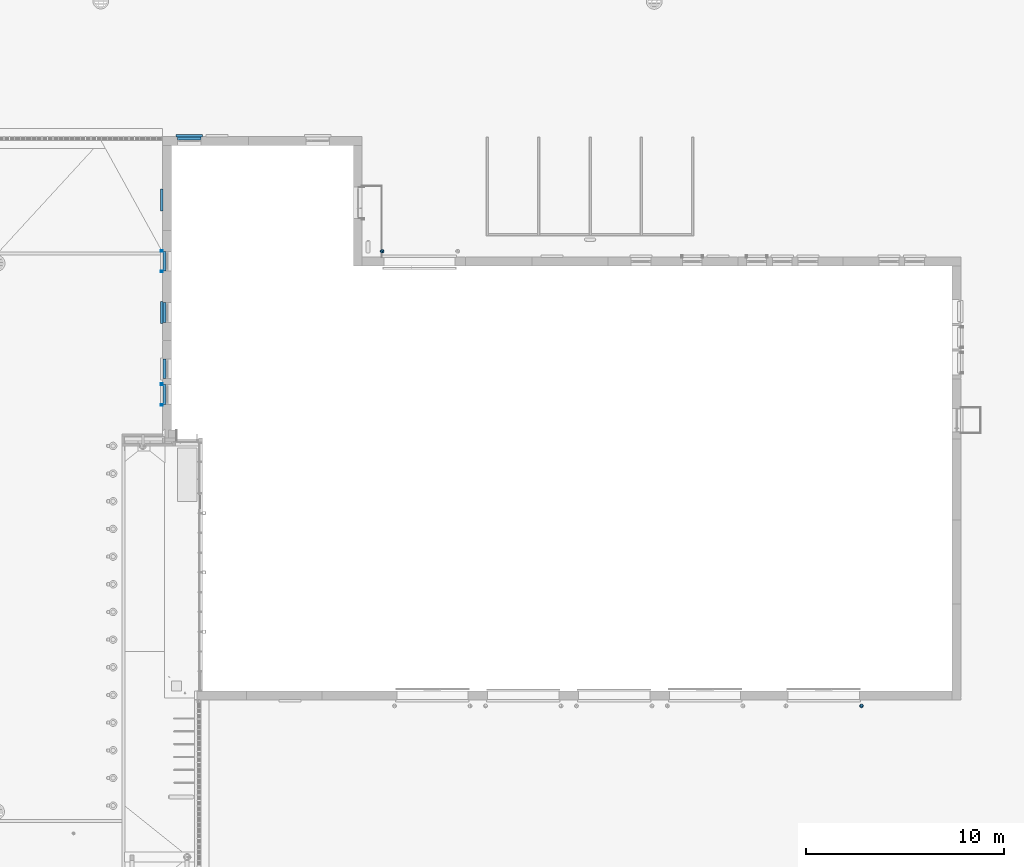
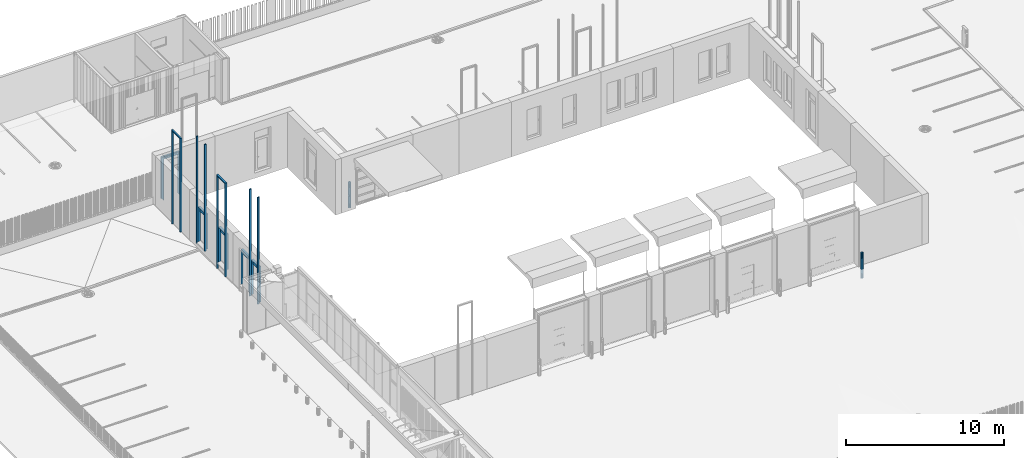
# One storey, part 49 of 77: 11 discrete accessories.
"""IFC2X3 building model written with IfcOpenShell, lengths in millimetres."""

from ifc_helpers import new_model, entity, si_unit, converted_unit, derived_unit, direction, frame, origin, origin_2d_with_axis, place, context, subcontext, project, spatial, polyline, rectangle, outline, extrude, faceted_brep, source, transform, mapped, material, type_object, type_shapes, element, save


model = new_model("IFC2X3")

# Units and contexts
model_context = context("Model", 3, precision=0.01, world=origin(), true_north=direction((6.12303176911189e-17, 1.0)))
body_context = subcontext(model_context, "Body", "Model", "MODEL_VIEW")
ifc_project = project(units=[si_unit("LENGTHUNIT", "METRE", prefix="MILLI"), si_unit("AREAUNIT", "SQUARE_METRE"), si_unit("VOLUMEUNIT", "CUBIC_METRE"), converted_unit("PLANEANGLEUNIT", "DEGREE", entity("IfcRatioMeasure", 0.0174532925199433), si_unit("PLANEANGLEUNIT", "RADIAN"), dimensions=[0, 0, 0, 0, 0, 0, 0]), si_unit("MASSUNIT", "GRAM", prefix="KILO"), derived_unit("MASSDENSITYUNIT", [(si_unit("MASSUNIT", "GRAM", prefix="KILO"), 1), (si_unit("LENGTHUNIT", "METRE"), -3)]), si_unit("TIMEUNIT", "SECOND"), si_unit("FREQUENCYUNIT", "HERTZ"), si_unit("THERMODYNAMICTEMPERATUREUNIT", "DEGREE_CELSIUS"), derived_unit("THERMALTRANSMITTANCEUNIT", [(si_unit("MASSUNIT", "GRAM", prefix="KILO"), 1), (si_unit("THERMODYNAMICTEMPERATUREUNIT", "KELVIN"), -1), (si_unit("TIMEUNIT", "SECOND"), -3)]), derived_unit("VOLUMETRICFLOWRATEUNIT", [(si_unit("LENGTHUNIT", "METRE"), 3), (si_unit("TIMEUNIT", "SECOND"), -1)]), si_unit("ELECTRICCURRENTUNIT", "AMPERE"), si_unit("ELECTRICVOLTAGEUNIT", "VOLT"), si_unit("POWERUNIT", "WATT"), si_unit("FORCEUNIT", "NEWTON", prefix="KILO"), si_unit("ILLUMINANCEUNIT", "LUX"), si_unit("LUMINOUSFLUXUNIT", "LUMEN"), si_unit("LUMINOUSINTENSITYUNIT", "CANDELA"), derived_unit("USERDEFINED", [(si_unit("MASSUNIT", "GRAM", prefix="KILO"), -1), (si_unit("LENGTHUNIT", "METRE"), -2), (si_unit("TIMEUNIT", "SECOND"), 3), (si_unit("LUMINOUSFLUXUNIT", "LUMEN"), 1)]), derived_unit("LINEARVELOCITYUNIT", [(si_unit("LENGTHUNIT", "METRE"), 1), (si_unit("TIMEUNIT", "SECOND"), -1)]), si_unit("PRESSUREUNIT", "PASCAL"), derived_unit("USERDEFINED", [(si_unit("LENGTHUNIT", "METRE"), -2), (si_unit("MASSUNIT", "GRAM", prefix="KILO"), 1), (si_unit("TIMEUNIT", "SECOND"), -2)])], contexts=[model_context])

# Site, building, storey
site_placement = place(None, origin())
site = spatial("IfcSite", under=ifc_project, at=site_placement, Name="Default", CompositionType="ELEMENT")
building_placement = place(site_placement, origin())
building = spatial("IfcBuilding", under=site, at=building_placement, CompositionType="ELEMENT")
storey_placement = place(building_placement, origin())
storey = spatial("IfcBuildingStorey", under=building, at=storey_placement, Name="1. KORRUS", CompositionType="ELEMENT", Elevation=0.0)

# Discrete accessories
ifc_material_1 = material(Name="Default New Material-must-varv")
discrete_accessory_type_1 = type_object("IfcDiscreteAccessoryType", Name="ukse-pollar", material=ifc_material_1)
shared_shape_1 = source(origin(), body_context, "Body", "Brep", [
    faceted_brep([(93.969262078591, -34.2020143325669, 1200.0), (95.8287421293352, -23.6563789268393, 1200.0), (97.6882221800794, -13.1107435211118, 1200.0), (100.0, 0.0, 1200.0), (91.8749158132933, 0.0, 1205.6559032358), (83.7498316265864, 0.0, 1211.3118064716), (76.9390417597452, 0.0, 1216.05282423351), (69.2436158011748, -37.0764107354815, 1215.9880775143), (62.8416939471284, -39.8030161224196, 1218.4526620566), (63.3022221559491, -75.4406506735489, 1200.0), (-91.8749158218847, 0.0, 1205.65590322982), (-100.0, 0.0, 1200.0), (-97.6882221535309, -13.110743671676, 1200.0), (-95.8287421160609, -23.6563790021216, 1200.0), (-93.9692620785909, -34.2020143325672, 1200.0), (-76.9390417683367, 0.0, 1216.05282422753), (-83.7498316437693, 0.0, 1211.31180645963), (76.604444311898, -64.278760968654, 1200.0), (61.6281008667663, 0.0, 1224.0406107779), (85.2868531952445, -49.2403876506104, 1200.0), (4.40844307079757, -58.3778316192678, 1226.30016518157), (9.03191194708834, 0.0, 1237.09268012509), (-3.54862814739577, -32.9400963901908, 1234.4920463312), (44.627798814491, 0.0, 1230.53414834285), (54.6170308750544, -47.6944043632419, 1219.50624940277), (17.3648177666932, -98.4807753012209, 1200.0), (33.6824088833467, -92.5416578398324, 1200.0), (25.5588463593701, -59.4119136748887, 1223.53680168), (50.0, -86.6025403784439, 1200.0), (43.4209832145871, -50.3665618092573, 1222.6504135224), (36.1276477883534, 0.0, 1233.78091712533), (-85.2868531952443, -49.2403876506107, 1200.0), (-70.128251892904, 0.0, 1220.79384199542), (-76.6044443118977, -64.2787609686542, 1200.0), (-61.6281008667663, 0.0, 1224.0406107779), (70.128251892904, 0.0, 1220.79384199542), (-43.3922707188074, -54.0995868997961, 1221.20165944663), (-54.4185160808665, -48.7244133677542, 1219.21017541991), (-50.0, -86.6025403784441, 1200.0), (35.2622305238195, -66.2009236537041, 1218.09661192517), (27.095735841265, 0.0, 1234.88483812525), (-63.3022221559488, -75.4406506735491, 1200.0), (-62.8416940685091, -39.8030246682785, 1218.45265938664), (18.4754636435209, -34.2574490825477, 1233.0588958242), (18.0638238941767, 0.0, 1235.98875912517), (-53.1279498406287, 0.0, 1227.28737956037), (-69.2436179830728, -37.0764202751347, 1215.98807356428), (15.0400910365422, -63.9380091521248, 1223.05106581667), (0.0, -98.4807753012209, 1200.0), (-21.4967364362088, -71.3818883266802, 1218.36002279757), (-31.093916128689, -53.1550996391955, 1224.97270928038), (-33.6824088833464, -92.5416578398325, 1200.0), (-36.1276477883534, 0.0, 1233.78091712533), (-27.095735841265, 0.0, 1234.88483812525), (-13.9644320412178, -48.8776365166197, 1229.32055829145), (53.1279498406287, 0.0, 1227.28737956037), (-44.627798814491, 0.0, 1230.53414834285), (-18.0638238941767, 0.0, 1235.98875912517), (-9.03191194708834, 0.0, 1237.09268012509), (-9.80597558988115, -78.5292492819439, 1215.62108797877), (-17.3648177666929, -98.480775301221, 1200.0), (0.0, 0.0, 1238.19660112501), (-93.9692620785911, 34.2020143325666, 1200.0), (-95.8287421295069, 23.6563789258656, 1200.0), (-97.6882221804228, 13.1107435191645, 1200.0), (50.0, 86.6025403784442, 1200.0), (54.4185175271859, 48.7244091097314, 1219.21017640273), (63.3022221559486, 75.4406506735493, 1200.0), (97.6882221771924, 13.110743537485, 1200.0), (95.8287421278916, 23.6563789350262, 1200.0), (93.9692620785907, 34.2020143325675, 1200.0), (-76.6044443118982, 64.2787609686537, 1200.0), (-69.2436157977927, 37.076410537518, 1215.98807757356), (-85.2868531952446, 49.2403876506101, 1200.0), (-4.40844201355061, 58.377832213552, 1226.30016496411), (3.5486282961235, 32.9400954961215, 1234.4920465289), (-54.6170308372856, 47.6944042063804, 1219.50624947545), (-62.8416938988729, 39.8030161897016, 1218.45266205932), (-17.3648177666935, 98.4807753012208, 1200.0), (-33.6824088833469, 92.5416578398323, 1200.0), (-25.5588462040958, 59.4119134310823, 1223.53680181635), (85.2868531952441, 49.240387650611, 1200.0), (-43.420983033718, 50.3665619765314, 1222.65041351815), (62.8416939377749, 39.803016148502, 1218.45266205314), (43.3922717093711, 54.0995849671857, 1221.20165990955), (-50.0, 86.6025403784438, 1200.0), (-63.3022221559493, 75.4406506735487, 1200.0), (-18.4754634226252, 34.2574489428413, 1233.05889588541), (76.6044443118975, 64.2787609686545, 1200.0), (69.2436157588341, 37.0764105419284, 1215.98807759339), (-35.2622303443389, 66.2009242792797, 1218.09661165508), (-15.0400904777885, 63.938008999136, 1223.05106595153), (0.0, 98.4807753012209, 1200.0), (21.4967358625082, 71.3818881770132, 1218.3600229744), (31.0939160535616, 53.1551002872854, 1224.97270904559), (33.6824088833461, 92.5416578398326, 1200.0), (13.964432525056, 48.8776338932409, 1229.32055915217), (9.80597229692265, 78.5292495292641, 1215.62108807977), (17.3648177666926, 98.480775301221, 1200.0), (0.0, 0.0, 1200.0)], [[[0, 1, 2, 3, 4, 5, 6]], [[7, 8, 9]], [[10, 11, 12, 13, 14, 15, 16]], [[17, 18, 7]], [[0, 6, 19]], [[17, 19, 18]], [[20, 21, 22]], [[23, 24, 8]], [[25, 26, 27]], [[28, 24, 29]], [[29, 24, 30]], [[31, 32, 15]], [[33, 34, 31]], [[35, 19, 6]], [[32, 31, 34]], [[36, 37, 38]], [[39, 29, 40]], [[15, 14, 31]], [[41, 37, 42]], [[21, 43, 44]], [[18, 19, 35]], [[45, 34, 46]], [[38, 37, 41]], [[42, 45, 46]], [[40, 44, 27]], [[43, 20, 47]], [[28, 39, 26]], [[48, 25, 47]], [[49, 50, 51]], [[52, 36, 53]], [[22, 54, 20]], [[29, 30, 40]], [[26, 39, 27]], [[8, 55, 23]], [[9, 24, 28]], [[23, 30, 24]], [[55, 8, 7]], [[9, 8, 24]], [[56, 42, 37]], [[54, 50, 49]], [[50, 53, 36]], [[53, 50, 57]], [[54, 57, 50]], [[38, 51, 36]], [[58, 57, 54]], [[20, 59, 48]], [[52, 37, 36]], [[50, 36, 51]], [[45, 42, 56]], [[37, 52, 56]], [[33, 41, 46]], [[55, 7, 18]], [[17, 7, 9]], [[42, 46, 41]], [[33, 46, 34]], [[27, 43, 47]], [[44, 43, 27]], [[43, 21, 20]], [[47, 25, 27]], [[60, 59, 49]], [[20, 48, 47]], [[27, 39, 40]], [[29, 39, 28]], [[54, 22, 58]], [[61, 58, 22]], [[61, 22, 21]], [[54, 49, 59]], [[60, 49, 51]], [[54, 59, 20]], [[59, 60, 48]], [[62, 63, 64, 11, 10, 16, 15]], [[65, 66, 67]], [[4, 3, 68, 69, 70, 6, 5]], [[71, 34, 72]], [[71, 73, 34]], [[74, 58, 75]], [[56, 76, 77]], [[78, 79, 80]], [[35, 81, 18]], [[82, 76, 52]], [[67, 66, 83]], [[62, 15, 73]], [[70, 81, 6]], [[32, 73, 15]], [[84, 66, 65]], [[85, 76, 82]], [[72, 77, 86]], [[6, 81, 35]], [[58, 87, 57]], [[88, 18, 81]], [[34, 73, 32]], [[55, 18, 89]], [[83, 55, 89]], [[90, 82, 53]], [[53, 57, 80]], [[87, 74, 91]], [[85, 90, 79]], [[92, 78, 91]], [[93, 94, 95]], [[30, 84, 40]], [[75, 96, 74]], [[82, 52, 53]], [[79, 90, 80]], [[77, 45, 56]], [[86, 76, 85]], [[56, 52, 76]], [[45, 77, 72]], [[86, 77, 76]], [[23, 83, 66]], [[96, 94, 93]], [[94, 40, 84]], [[40, 94, 44]], [[96, 44, 94]], [[65, 95, 84]], [[21, 44, 96]], [[74, 97, 92]], [[30, 66, 84]], [[94, 84, 95]], [[55, 83, 23]], [[66, 30, 23]], [[88, 67, 89]], [[45, 72, 34]], [[71, 72, 86]], [[83, 89, 67]], [[88, 89, 18]], [[80, 87, 91]], [[57, 87, 80]], [[87, 58, 74]], [[91, 78, 80]], [[98, 97, 93]], [[74, 92, 91]], [[80, 90, 53]], [[82, 90, 85]], [[96, 75, 21]], [[61, 21, 75]], [[61, 75, 58]], [[96, 93, 97]], [[98, 93, 95]], [[96, 97, 74]], [[97, 98, 92]], [[99, 33, 31]], [[99, 31, 14]], [[99, 14, 13]], [[99, 41, 33]], [[99, 38, 41]], [[99, 51, 38]], [[99, 60, 51]], [[99, 13, 12]], [[99, 12, 11]], [[99, 11, 64]], [[99, 48, 60]], [[99, 25, 48]], [[99, 26, 25]], [[99, 28, 26]], [[99, 9, 28]], [[99, 17, 9]], [[99, 19, 17]], [[99, 0, 19]], [[99, 1, 0]], [[99, 2, 1]], [[99, 3, 2]], [[99, 64, 63]], [[99, 63, 62]], [[99, 62, 73]], [[99, 73, 71]], [[99, 71, 86]], [[99, 86, 85]], [[99, 85, 79]], [[99, 79, 78]], [[99, 78, 92]], [[99, 68, 3]], [[99, 69, 68]], [[99, 70, 69]], [[99, 81, 70]], [[99, 88, 81]], [[99, 67, 88]], [[99, 65, 67]], [[99, 95, 65]], [[99, 98, 95]], [[99, 92, 98]]]),
    faceted_brep([(70.7106781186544, 70.7106781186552, 1200.0), (50.0, 86.6025403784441, 1200.0), (25.8819045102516, 96.592582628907, 1200.0), (0.0, 100.0, 1200.0), (-25.8819045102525, 96.5925826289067, 1200.0), (-50.0, 86.6025403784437, 1200.0), (-70.710678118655, 70.7106781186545, 1200.0), (-86.6025403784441, 50.0, 1200.0), (-96.5925826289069, 25.8819045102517, 1200.0), (-100.0, 0.0, 1200.0), (-96.5925826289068, -25.8819045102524, 1200.0), (-86.6025403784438, -50.0, 1200.0), (-70.7106781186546, -70.7106781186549, 1200.0), (-50.0, -86.602540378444, 1200.0), (-25.8819045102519, -96.5925826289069, 1200.0), (0.0, -100.0, 1200.0), (25.8819045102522, -96.5925826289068, 1200.0), (50.0, -86.6025403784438, 1200.0), (70.7106781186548, -70.7106781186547, 1200.0), (86.6025403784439, -50.0, 1200.0), (96.5925826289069, -25.8819045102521, 1200.0), (100.0, 0.0, 1200.0), (96.5925826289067, 25.8819045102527, 1200.0), (86.6025403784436, 50.0, 1200.0), (50.0, -86.6025403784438, -750.0), (25.8819045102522, -96.5925826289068, -750.0), (0.0, -100.0, -750.0), (-25.8819045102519, -96.5925826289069, -750.0), (-50.0, -86.602540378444, -750.0), (-70.7106781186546, -70.7106781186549, -750.0), (-86.6025403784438, -50.0, -750.0), (-96.5925826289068, -25.8819045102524, -750.0), (-100.0, 0.0, -750.0), (-96.5925826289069, 25.8819045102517, -750.0), (-86.6025403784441, 50.0, -750.0), (-70.710678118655, 70.7106781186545, -750.0), (-50.0, 86.6025403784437, -750.0), (-25.8819045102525, 96.5925826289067, -750.0), (0.0, 100.0, -750.0), (25.8819045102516, 96.592582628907, -750.0), (50.0, 86.6025403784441, -750.0), (70.7106781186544, 70.7106781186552, -750.0), (86.6025403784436, 50.0, -750.0), (96.5925826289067, 25.8819045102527, -750.0), (100.0, 0.0, -750.0), (96.5925826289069, -25.8819045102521, -750.0), (86.6025403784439, -50.0, -750.0), (70.7106781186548, -70.7106781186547, -750.0), (-92.387953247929, 38.2683432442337, -285.980854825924), (-95.1291375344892, 30.8293235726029, 225.0), (-79.3353340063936, 60.8761429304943, 225.0), (-60.8761428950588, 79.3353340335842, -151.214692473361), (-38.2683432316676, 92.3879532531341, -299.59510263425), (60.8761429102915, 79.3353340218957, 601.214692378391), (79.335334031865, 60.8761428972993, 225.0), (55.4391010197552, 83.225633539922, 225.0), (-79.3353340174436, 60.8761429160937, 749.595102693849), (4.65337325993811, 99.8916719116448, 225.0), (13.0526192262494, 99.1444861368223, -269.40187286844), (-13.0526192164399, 99.1444861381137, -151.214692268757), (-38.2683432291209, 92.387953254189, 225.0), (-38.2683432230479, 92.3879532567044, 749.595102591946), (-19.6480455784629, 98.0507741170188, 225.0), (-79.3353340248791, 60.8761429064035, -299.595102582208), (-60.876142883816, 79.3353340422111, 601.214692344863), (60.8761429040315, 79.3353340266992, -151.214692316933), (79.335334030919, 60.8761428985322, -299.595102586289), (-98.5078583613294, 17.2105154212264, -334.254320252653), (-100.0, 0.0, -51.6568483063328), (-100.0, 0.0, 501.662546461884), (-98.507858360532, 17.2105154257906, 784.254320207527), (-92.3879532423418, 38.2683432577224, 735.980854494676), (100.0, 0.0, -51.6591080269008), (95.1291375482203, 30.8293235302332, 225.0), (100.0, 0.0, 501.659108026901), (-55.4391010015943, 83.2256335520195, 225.0), (38.2683432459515, 92.3879532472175, 749.595102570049), (-13.0526192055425, 99.1444861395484, 601.214692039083), (38.2683432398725, 92.3879532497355, -299.595102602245), (92.3879532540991, 38.2683432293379, 735.980854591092), (92.3879532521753, 38.2683432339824, -285.980854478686), (79.335334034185, 60.8761428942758, 749.595102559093), (98.5078583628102, 17.2105154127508, 784.254320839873), (13.0526192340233, 99.1444861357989, 719.401872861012), (98.5078583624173, 17.2105154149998, -334.254320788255), (38.268343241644, 92.3879532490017, 225.0), (98.5078583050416, -17.210515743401, -334.254323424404), (-60.876142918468, -79.3353340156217, -151.214692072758), (-79.3353340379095, -60.8761428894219, -299.595102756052), (79.3353338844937, -60.8761430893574, -299.595101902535), (13.0526191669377, -99.1444861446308, -151.214692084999), (38.2683431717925, -92.3879532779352, -299.595102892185), (38.2683431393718, -92.3879532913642, 225.0), (38.2683431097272, -92.3879533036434, 749.595103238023), (19.6480455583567, -98.0507741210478, 225.0), (-13.0526193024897, -99.1444861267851, 719.401872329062), (60.8761427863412, -79.3353341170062, -151.214692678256), (66.0410934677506, -75.0904386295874, 225.000002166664), (-4.6533732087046, -99.8916719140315, 224.999998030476), (-13.0526192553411, -99.1444861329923, -269.401871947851), (95.1291373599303, -30.829324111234, 225.000013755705), (-95.1291375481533, -30.8293235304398, 225.0), (-98.5078583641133, -17.210515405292, -334.254320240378), (-92.3879532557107, -38.2683432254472, -285.980854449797), (79.3353338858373, -60.8761430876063, 749.595105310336), (79.3353338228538, -60.876143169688, 225.000002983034), (92.3879530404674, -38.2683437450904, -285.980851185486), (-38.2683432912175, -92.3879532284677, 749.595102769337), (92.38795316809, -38.2683434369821, 735.980862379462), (60.8761427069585, -79.3353341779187, 601.214694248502), (13.0526190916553, -99.144486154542, 601.214690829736), (-60.8761429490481, -79.3353339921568, 601.214692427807), (-79.3353340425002, -60.8761428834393, 225.0), (-55.4391010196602, -83.2256335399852, 225.0), (-38.2683432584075, -92.387953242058, -299.595102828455), (-92.3879532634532, -38.268343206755, 735.980854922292), (-79.3353340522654, -60.8761428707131, 749.59510268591), (-98.5078583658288, -17.2105153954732, 784.254320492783), (98.5078583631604, -17.2105154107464, 784.25432452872), (-38.2683432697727, -92.3879532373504, 225.0)], [[[0, 1, 2, 3, 4, 5, 6, 7, 8, 9, 10, 11, 12, 13, 14, 15, 16, 17, 18, 19, 20, 21, 22, 23]], [[24, 25, 26, 27, 28, 29, 30, 31, 32, 33, 34, 35, 36, 37, 38, 39, 40, 41, 42, 43, 44, 45, 46, 47]], [[48, 49, 50]], [[36, 51, 52]], [[53, 54, 55]], [[7, 6, 56]], [[52, 37, 36]], [[57, 58, 59]], [[60, 61, 62, 52]], [[50, 51, 63]], [[50, 56, 64]], [[41, 65, 66]], [[52, 62, 59]], [[48, 34, 33]], [[32, 67, 33]], [[49, 68, 69]], [[63, 35, 34]], [[41, 40, 65]], [[70, 71, 49]], [[72, 73, 74]], [[38, 37, 59]], [[64, 61, 75]], [[76, 2, 1]], [[5, 64, 6]], [[61, 5, 4]], [[4, 77, 61]], [[61, 60, 52, 75]], [[78, 40, 39]], [[39, 38, 58]], [[51, 50, 75]], [[66, 42, 41]], [[79, 73, 54]], [[54, 80, 66]], [[54, 81, 79]], [[22, 82, 79]], [[33, 67, 48]], [[6, 64, 56]], [[21, 82, 22]], [[77, 4, 3]], [[3, 83, 77]], [[42, 80, 43]], [[51, 36, 35]], [[70, 69, 9]], [[68, 67, 32]], [[53, 81, 54]], [[54, 66, 65]], [[84, 72, 44]], [[74, 82, 21]], [[78, 55, 65]], [[1, 0, 53]], [[73, 84, 80]], [[8, 7, 71]], [[81, 0, 23]], [[50, 71, 56]], [[50, 63, 48]], [[59, 58, 38]], [[83, 3, 2]], [[23, 22, 79]], [[1, 53, 76]], [[78, 85, 76, 55]], [[39, 58, 78]], [[57, 83, 85]], [[57, 62, 77]], [[85, 83, 76]], [[85, 78, 58]], [[63, 34, 48]], [[68, 49, 67]], [[8, 71, 70]], [[49, 71, 50]], [[81, 23, 79]], [[74, 73, 82]], [[43, 80, 84]], [[73, 80, 54]], [[37, 52, 59]], [[5, 61, 64]], [[40, 78, 65]], [[2, 76, 83]], [[7, 56, 71]], [[35, 63, 51]], [[42, 66, 80]], [[0, 81, 53]], [[58, 57, 85]], [[57, 77, 83]], [[48, 67, 49]], [[8, 70, 9]], [[69, 70, 49]], [[79, 82, 73]], [[43, 84, 44]], [[72, 84, 73]], [[59, 62, 57]], [[77, 62, 61]], [[64, 75, 50]], [[51, 75, 52]], [[65, 55, 54]], [[53, 55, 76]], [[45, 44, 86]], [[29, 87, 88]], [[89, 47, 46]], [[26, 25, 90]], [[91, 25, 24]], [[92, 93, 94, 91]], [[95, 15, 14]], [[96, 89, 97]], [[98, 99, 90]], [[94, 90, 91]], [[74, 100, 72]], [[101, 102, 103]], [[29, 28, 87]], [[24, 47, 96]], [[104, 19, 18]], [[105, 106, 100]], [[107, 14, 13]], [[108, 20, 19]], [[93, 92, 109]], [[92, 91, 96]], [[93, 17, 16]], [[18, 17, 109]], [[45, 106, 46]], [[16, 110, 93]], [[111, 112, 113]], [[114, 28, 27]], [[89, 105, 104, 97]], [[18, 109, 104]], [[88, 30, 29]], [[115, 101, 112]], [[24, 96, 91]], [[112, 103, 88]], [[112, 116, 115]], [[45, 86, 106]], [[109, 92, 97]], [[9, 117, 10]], [[110, 16, 15]], [[15, 95, 110]], [[116, 12, 11]], [[11, 10, 115]], [[118, 74, 21]], [[111, 116, 112]], [[112, 88, 87]], [[105, 108, 104]], [[114, 113, 87]], [[13, 12, 111]], [[102, 68, 32]], [[69, 117, 9]], [[30, 103, 31]], [[100, 118, 108]], [[10, 117, 115]], [[90, 99, 26]], [[27, 26, 99]], [[68, 101, 69]], [[13, 111, 107]], [[114, 119, 107, 113]], [[27, 99, 114]], [[98, 95, 119]], [[98, 94, 110]], [[119, 95, 107]], [[119, 114, 99]], [[89, 46, 106]], [[72, 100, 86]], [[20, 108, 118]], [[100, 108, 105]], [[116, 11, 115]], [[69, 101, 117]], [[31, 103, 102]], [[101, 103, 112]], [[47, 89, 96]], [[105, 89, 106]], [[19, 104, 108]], [[25, 91, 90]], [[17, 93, 109]], [[28, 114, 87]], [[14, 107, 95]], [[30, 88, 103]], [[12, 116, 111]], [[99, 98, 119]], [[98, 110, 95]], [[106, 86, 100]], [[72, 86, 44]], [[20, 118, 21]], [[74, 118, 100]], [[115, 117, 101]], [[31, 102, 32]], [[68, 102, 101]], [[96, 97, 92]], [[109, 97, 104]], [[90, 94, 98]], [[110, 94, 93]], [[87, 113, 112]], [[111, 113, 107]]]),
])
type_shapes(discrete_accessory_type_1, [shared_shape_1])
discrete_accessory_1_placement = place(storey_placement, frame((34910.1357493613, -750.0, 0.0), z_axis=(0.0, 0.0, 1.0), x_axis=(-1.0, 0.0, 0.0)))
element("IfcDiscreteAccessory", 1, at=discrete_accessory_1_placement, inside=storey, type_object=discrete_accessory_type_1, material=ifc_material_1, Name="ukse-pollar:ukse-pollar", ObjectType="ukse-pollar", context=body_context, shape_type="MappedRepresentation", body=[
    mapped(shared_shape_1, transform((0.0, 0.0, 0.0), scale=1.0)),
])
discrete_accessory_2_placement = place(storey_placement, frame((10660.314879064, 22250.0517807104, 0.0)))
element("IfcDiscreteAccessory", 2, at=discrete_accessory_2_placement, inside=storey, type_object=discrete_accessory_type_1, material=ifc_material_1, Name="ukse-pollar:ukse-pollar", ObjectType="ukse-pollar", context=body_context, shape_type="MappedRepresentation", body=[
    mapped(shared_shape_1, transform((0.0, 0.0, 0.0), scale=1.0)),
])
ifc_material_2 = material(Name="Must-al-komposiitplaat")
discrete_accessory_type_2 = type_object("IfcDiscreteAccessoryType", Name="akna-ylaplekid1000", material=ifc_material_2)
shared_shape_2 = source(origin(), body_context, "Body", "SweptSolid", [
    extrude(rectangle(XDim=20.0, YDim=959.999999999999, at=origin_2d_with_axis()), frame((0.0, -10.0, 2270.0), z_axis=(0.0, 0.0, 1.0), x_axis=(0.0, 1.0, 0.0)), (0.0, 0.0, 1.0), 409.999999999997),
    extrude(outline(polyline([(-500.0, -1370.0), (500.0, -1370.0), (500.0, 1360.0), (480.0, 1360.0), (480.0, -1350.0), (-480.0, -1350.0), (-480.0, 1360.0), (-500.0, 1360.0), (-500.0, -1370.0)])), frame((0.0, -160.0, 1330.0), z_axis=(0.0, 1.0, 0.0), x_axis=(1.0, 0.0, 0.0)), (0.0, 0.0, 1.0), 160.0),
])
type_shapes(discrete_accessory_type_2, [shared_shape_2])
for number, where, z_axis, x_axis, name in (
    (3, (-270.0, 19149.9459673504, 500.0), (0.0, 0.0, 1.0), (0.0, -1.0, 0.0), "akna-ylaplekid:akna-ylaplekid1000"),
    (4, (-270.0, 21750.0027031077, 500.0), (0.0, 0.0, 1.0), (0.0, -1.0, 0.0), "akna-ylaplekid:akna-ylaplekid1000"),
    (5, (-270.0, 16300.0011772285, 500.0), (0.0, 0.0, 1.0), (0.0, -1.0, 0.0), "akna-ylaplekid:akna-ylaplekid1000"),
    (6, (-270.0, 14999.9997172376, 500.0), (0.0, 0.0, 1.0), (0.0, -1.0, 0.0), "akna-ylaplekid:akna-ylaplekid1000"),
):
    element("IfcDiscreteAccessory", number, at=place(storey_placement, frame(where, z_axis=z_axis, x_axis=x_axis)), inside=storey, type_object=discrete_accessory_type_2, material=ifc_material_2, Name=name, ObjectType="akna-ylaplekid1000", context=body_context, shape_type="MappedRepresentation", body=[
        mapped(shared_shape_2, transform((0.0, 0.0, 0.0), scale=1.0)),
    ])
discrete_accessory_type_3 = type_object("IfcDiscreteAccessoryType", Name="akna-ylaplekid1000", material=ifc_material_1)
shared_shape_3 = source(origin(), body_context, "Body", "Brep", [
    faceted_brep([(80.0, 0.0, 0.0), (0.0, 0.0, 0.0), (0.0, 120.0, 0.0), (4.0, 120.0, 0.0), (4.0, 4.0, 0.0), (76.0, 4.0, 0.0), (76.0, 120.0, 0.0), (80.0, 120.0, 0.0), (80.0, 4.0, 7184.0), (80.0, 120.0, 7184.0), (80.0, 120.0, 7265.9861351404), (80.0, 4.0, 7256.31946847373), (76.0, 120.0, 7265.9861351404), (4.0, 120.0, 7265.9861351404), (0.0, 120.0, 7270.0), (1120.0, 120.0, 7270.0), (1120.0, 120.0, 0.0), (1116.0, 120.0, 0.0), (1116.0, 120.0, 7265.9861351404), (1044.0, 120.0, 7265.9861351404), (1044.0, 120.0, 0.0), (1040.0, 120.0, 0.0), (1040.0, 120.0, 7180.0), (80.0, 120.0, 7180.0), (1040.0, 120.0, 7184.0), (1040.0, 120.0, 7265.9861351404), (76.0, 4.0, 7256.31946847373), (4.0, 4.0, 7256.31946847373), (0.0, 0.0, 7260.0), (80.0, 0.0, 7180.0), (1040.0, 0.0, 7180.0), (1040.0, 0.0, 0.0), (1120.0, 0.0, 0.0), (1120.0, 0.0, 7260.0), (1040.0, 4.0, 7184.0), (1040.0, 4.0, 7256.31946847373), (1044.0, 4.0, 0.0), (1116.0, 4.0, 0.0), (1044.0, 4.0, 7256.31946847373), (1116.0, 4.0, 7256.31946847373)], [[[0, 1, 2, 3, 4, 5, 6, 7]], [[8, 9, 10, 11]], [[7, 6, 12, 13, 3, 2, 14, 15, 16, 17, 18, 19, 20, 21, 22, 23], [24, 25, 10, 9]], [[6, 5, 26, 12]], [[5, 4, 27, 26]], [[4, 3, 13, 27]], [[2, 1, 28, 14]], [[1, 0, 29, 30, 31, 32, 33, 28]], [[15, 14, 28, 33]], [[34, 8, 11, 35]], [[8, 34, 24, 9]], [[30, 29, 23, 22]], [[31, 21, 20, 36, 37, 17, 16, 32]], [[24, 34, 35, 25]], [[36, 20, 19, 38]], [[37, 36, 38, 39]], [[17, 37, 39, 18]], [[32, 16, 15, 33]], [[13, 12, 26, 27]], [[10, 25, 35, 11]], [[19, 18, 39, 38]], [[21, 31, 30, 22]], [[0, 7, 23, 29]]]),
])
type_shapes(discrete_accessory_type_3, [shared_shape_3])
for number, where, z_axis, x_axis in (
    (7, (-550.0, 19709.9438482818, 0.0), (0.0, 0.0, 1.0), (0.0, -1.0, 0.0)),
    (8, (-550.0, 25409.997598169, 0.0), (0.0, 0.0, 1.0), (0.0, -1.0, 0.0)),
):
    element("IfcDiscreteAccessory", number, at=place(storey_placement, frame(where, z_axis=z_axis, x_axis=x_axis)), inside=storey, type_object=discrete_accessory_type_3, material=ifc_material_1, Name="akna-ylaplekid_2k-A:akna-ylaplekid1000", ObjectType="akna-ylaplekid1000", context=body_context, shape_type="MappedRepresentation", body=[
        mapped(shared_shape_3, transform((0.0, 0.0, 0.0), scale=1.0)),
    ])
discrete_accessory_type_4 = type_object("IfcDiscreteAccessoryType", Name="akna-ylaplekid1000", material=ifc_material_1)
shared_shape_4 = source(origin(), body_context, "Body", "Brep", [
    faceted_brep([(1120.0, 0.0, 0.0), (1040.0, 0.0, 0.0), (1040.0, 120.0, 0.0), (1044.0, 120.0, 0.0), (1044.0, 4.0, 0.0), (1116.0, 4.0, 0.0), (1116.0, 120.0, 0.0), (1120.0, 120.0, 0.0), (1120.0, 120.0, 8283.67870615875), (1120.0, 0.0, 8262.51946847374), (1116.0, 119.999696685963, 8279.61694622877), (1044.0, 120.0, 8279.61522604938), (1040.0, 120.0, 8283.67870615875), (1116.0, 3.99969668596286, 8259.16301646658), (1116.0, 120.0, 8279.61522604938), (1044.0, 4.0, 8259.16306994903), (1116.0, 4.0, 8259.1612962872), (1044.0, 119.999696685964, 8279.61694622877), (1044.0, 4.0, 8259.1612962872), (1040.0, 0.0, 8262.51946847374), (1116.0, 4.0, 8259.16306994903), (1044.0, 3.99969668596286, 8259.16301646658)], [[[0, 1, 2, 3, 4, 5, 6, 7]], [[0, 7, 8, 9]], [[8, 7, 6, 10, 11, 3, 2, 12]], [[6, 5, 13, 14]], [[5, 4, 15, 16]], [[4, 3, 17, 18]], [[12, 2, 1, 19]], [[19, 1, 0, 9]], [[17, 10, 20, 21]], [[12, 19, 9, 8]]]),
    faceted_brep([(80.0, 0.0, 0.0), (0.0, 0.0, 0.0), (0.0, 120.0, 0.0), (4.0, 120.0, 0.0), (4.0, 4.0, 0.0), (76.0, 4.0, 0.0), (76.0, 120.0, 0.0), (80.0, 120.0, 0.0), (80.0, 120.0, 8283.67693249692), (80.0, 0.0, 8262.51769481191), (76.0, 120.0, 8279.61522604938), (4.0, 120.0, 8279.61522604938), (0.0, 120.0, 8283.67693249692), (76.0, 4.0, 8259.1612962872), (4.0, 4.0, 8259.1612962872), (0.0, 0.0, 8262.51769481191)], [[[0, 1, 2, 3, 4, 5, 6, 7]], [[0, 7, 8, 9]], [[8, 7, 6, 10, 11, 3, 2, 12]], [[6, 5, 13, 10]], [[5, 4, 14, 13]], [[4, 3, 11, 14]], [[12, 2, 1, 15]], [[15, 1, 0, 9]], [[11, 10, 13, 14]], [[12, 15, 9, 8]]]),
])
type_shapes(discrete_accessory_type_4, [shared_shape_4])
for number, where, z_axis, x_axis in (
    (9, (-550.0, 15560.0, 387.48053152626), (0.0, 0.0, 1.0), (0.0, -1.0, 0.0)),
    (10, (-550.0, 22309.9988087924, 387.480531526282), (0.0, 0.0, 1.0), (0.0, -1.0, 0.0)),
):
    element("IfcDiscreteAccessory", number, at=place(storey_placement, frame(where, z_axis=z_axis, x_axis=x_axis)), inside=storey, type_object=discrete_accessory_type_4, material=ifc_material_1, Name="akna-ylaplekid_2k-U:akna-ylaplekid1000", ObjectType="akna-ylaplekid1000", context=body_context, shape_type="MappedRepresentation", body=[
        mapped(shared_shape_4, transform((0.0, 0.0, 0.0), scale=1.0)),
    ])
discrete_accessory_type_5 = type_object("IfcDiscreteAccessoryType", Name="akna-ylaplekid1200", material=ifc_material_1)
shared_shape_5 = source(origin(), body_context, "Body", "Brep", [
    faceted_brep([(-580.0, 0.0, -500.0), (-600.0, 0.0, -500.0), (-600.0, 4.0, -500.0), (-584.0, 4.0, -500.0), (-584.0, 156.0, -500.0), (-600.0, 156.0, -500.0), (-600.0, 160.0, -500.0), (-580.0, 160.0, -500.0), (-580.0, 160.0, 2680.0), (-580.0, 0.0, 2680.0), (-600.0, 160.0, 2700.0), (600.0, 160.0, 2700.0), (600.0, 160.0, -500.0), (580.0, 160.0, -500.0), (580.0, 160.0, 2680.0), (-600.0, 156.0, 2700.0), (-584.0, 156.0, 2684.0), (584.0, 156.0, 2684.0), (584.0, 156.0, -500.0), (600.0, 156.0, -500.0), (600.0, 156.0, 2700.0), (-584.0, 4.0, 2684.0), (-600.0, 4.0, 2700.0), (600.0, 4.0, 2700.0), (600.0, 4.0, -500.0), (584.0, 4.0, -500.0), (584.0, 4.0, 2684.0), (-600.0, 0.0, 2700.0), (580.0, 0.0, 2680.0), (580.0, 0.0, -500.0), (600.0, 0.0, -500.0), (600.0, 0.0, 2700.0)], [[[0, 1, 2, 3, 4, 5, 6, 7]], [[7, 8, 9, 0]], [[6, 10, 11, 12, 13, 14, 8, 7]], [[5, 15, 10, 6]], [[4, 16, 17, 18, 19, 20, 15, 5]], [[3, 21, 16, 4]], [[2, 22, 23, 24, 25, 26, 21, 3]], [[1, 27, 22, 2]], [[0, 9, 28, 29, 30, 31, 27, 1]], [[8, 14, 28, 9]], [[15, 20, 11, 10]], [[21, 26, 17, 16]], [[27, 31, 23, 22]], [[29, 13, 12, 19, 18, 25, 24, 30]], [[14, 13, 29, 28]], [[20, 19, 12, 11]], [[26, 25, 18, 17]], [[31, 30, 24, 23]]]),
    faceted_brep([(-580.0, 280.0, -500.0), (-580.0, 160.0, -500.0), (-584.0, 160.0, -500.0), (-584.0, 276.0, -500.0), (-656.0, 276.0, -500.0), (-656.0, 160.0, -500.0), (-660.0, 160.0, -500.0), (-660.0, 280.0, -500.0), (-580.0, 276.0, 2684.0), (-580.0, 276.0, 2756.31946847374), (-580.0, 160.0, 2765.9861351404), (-580.0, 160.0, 2684.0), (-580.0, 160.0, 2680.0), (580.0, 160.0, 2680.0), (580.0, 160.0, -500.0), (584.0, 160.0, -500.0), (584.0, 160.0, 2765.9861351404), (656.0, 160.0, 2765.9861351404), (656.0, 160.0, -500.0), (660.0, 160.0, -500.0), (660.0, 160.0, 2770.0), (-660.0, 160.0, 2770.0), (-656.0, 160.0, 2765.9861351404), (-584.0, 160.0, 2765.9861351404), (580.0, 160.0, 2684.0), (580.0, 160.0, 2765.9861351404), (-584.0, 276.0, 2756.31946847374), (-656.0, 276.0, 2756.31946847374), (-660.0, 280.0, 2760.0), (660.0, 280.0, 2760.0), (660.0, 280.0, -500.0), (580.0, 280.0, -500.0), (580.0, 280.0, 2680.0), (-580.0, 280.0, 2680.0), (580.0, 276.0, 2684.0), (580.0, 276.0, 2756.31946847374), (656.0, 276.0, -500.0), (584.0, 276.0, -500.0), (584.0, 276.0, 2756.31946847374), (656.0, 276.0, 2756.31946847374)], [[[0, 1, 2, 3, 4, 5, 6, 7]], [[8, 9, 10, 11]], [[1, 12, 13, 14, 15, 16, 17, 18, 19, 20, 21, 6, 5, 22, 23, 2], [24, 11, 10, 25]], [[2, 23, 26, 3]], [[3, 26, 27, 4]], [[4, 27, 22, 5]], [[6, 21, 28, 7]], [[7, 28, 29, 30, 31, 32, 33, 0]], [[20, 29, 28, 21]], [[34, 35, 9, 8]], [[8, 11, 24, 34]], [[32, 13, 12, 33]], [[31, 30, 19, 18, 36, 37, 15, 14]], [[24, 25, 35, 34]], [[37, 38, 16, 15]], [[36, 39, 38, 37]], [[18, 17, 39, 36]], [[30, 29, 20, 19]], [[22, 27, 26, 23]], [[10, 9, 35, 25]], [[16, 38, 39, 17]], [[14, 13, 32, 31]], [[0, 33, 12, 1]]]),
])
type_shapes(discrete_accessory_type_5, [shared_shape_5])
discrete_accessory_3_placement = place(storey_placement, frame((900.0, 27870.0, 500.0)))
element("IfcDiscreteAccessory", 11, at=discrete_accessory_3_placement, inside=storey, type_object=discrete_accessory_type_5, material=ifc_material_1, Name="akna-ylaplekid_1k-A160:akna-ylaplekid1200", ObjectType="akna-ylaplekid1200", context=body_context, shape_type="MappedRepresentation", body=[
    mapped(shared_shape_5, transform((0.0, 0.0, 0.0), scale=1.0)),
])

save(model, "model.ifc")
